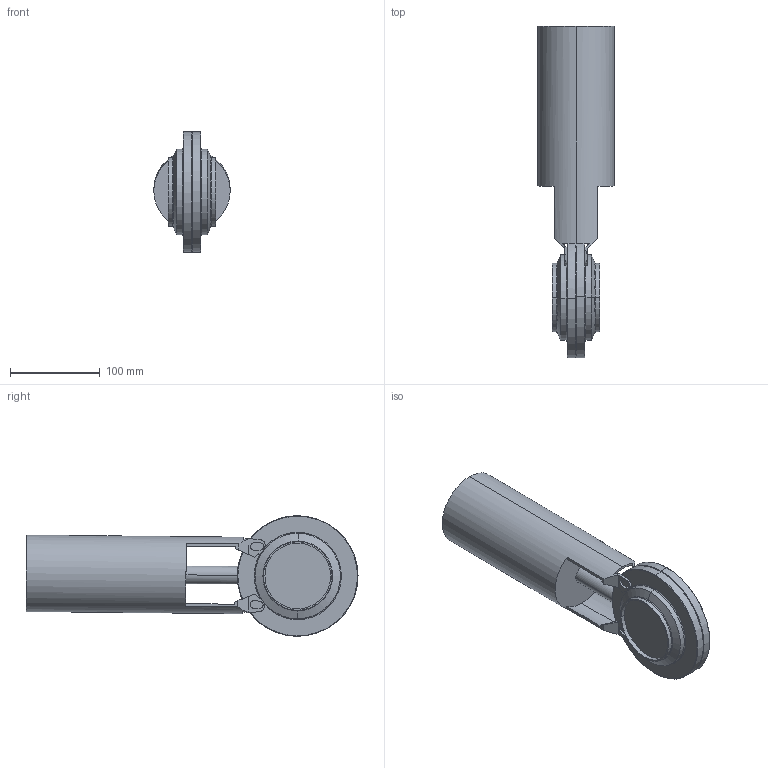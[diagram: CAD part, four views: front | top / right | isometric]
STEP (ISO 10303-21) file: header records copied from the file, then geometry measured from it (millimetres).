
FILE_DESCRIPTION(('OneSpaceDesigner STEP Export'),'2;1');
FILE_NAME('25-79-552-..vereint.stp','2007-04-20T 8:53:45',(''),(''),'OneSpace Designer STEP processor for AP214 (Solid Model)','OneSpace Modeling 15.00 06-Feb-2007 (C) CoCreate Software GmbH','');
FILE_SCHEMA(('AUTOMOTIVE_DESIGN { 1 0 10303 214 1 1 1 1 }'));
Length unit declared in the file: millimetre
Products named in the file (2): SV1-3zoll-FZ-12S; SV1-3zoll-FZ-12S-vereint
Assembly tree (1 placements, depth 2):
  SV1-3zoll-FZ-12S-vereint
    SV1-3zoll-FZ-12S
Bounding box: 85 x 368.91 x 133.99 mm (x, y, z)
Volume: 1477771.2 mm3; surface area: 123501.5 mm2
Topology: 1 solids, 1 shells, 142 faces, 385 edges, 244 vertices
Faces by surface type: plane 76, cylinder 42, cone 16, torus 8
Entity records: 5256 total; most frequent: CARTESIAN_POINT 1980, ORIENTED_EDGE 770, DIRECTION 574, EDGE_CURVE 385, VERTEX_POINT 244, VECTOR 198, LINE 198, AXIS2_PLACEMENT_3D 188
